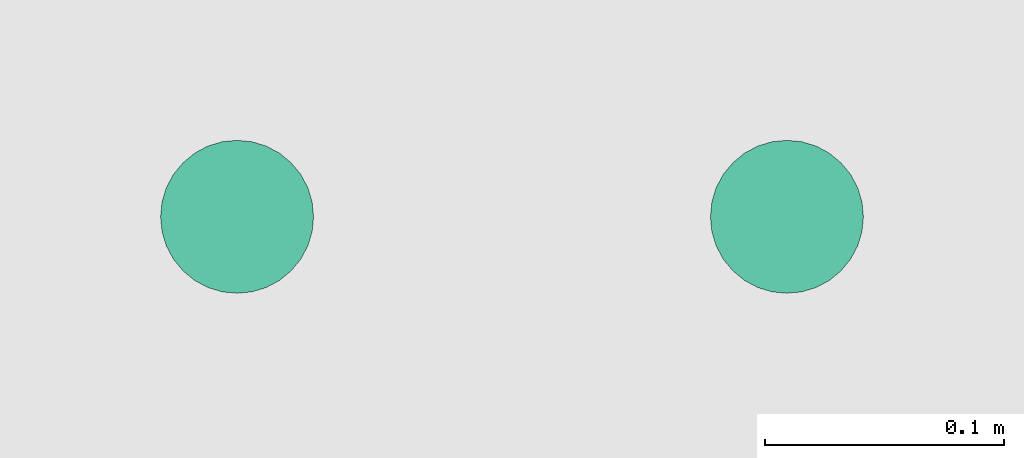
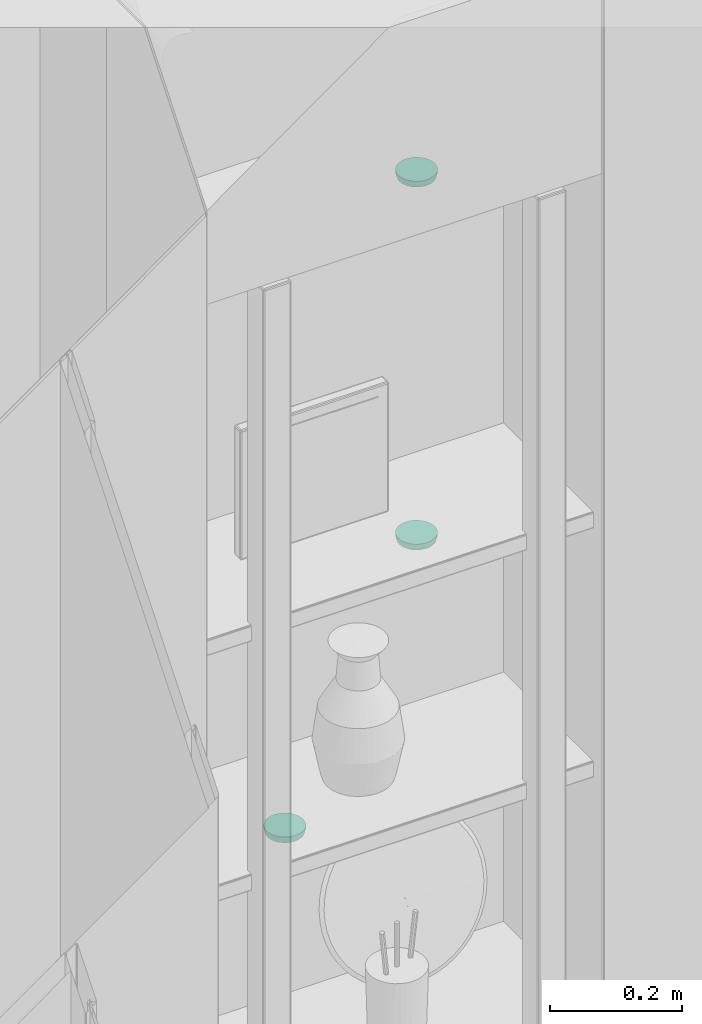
# One storey, part 10 of 11: 3 light fixtures.
"""IFC4 building model written with IfcOpenShell, lengths in millimetres."""

from ifc_helpers import new_model, si_unit, frame, origin_with_axes, place, context, subcontext, project, spatial, triangles, material, constituent, constituent_set, element, save


model = new_model("IFC4")

# Units and contexts
model_context = context("Model", 3, precision=0.01, world=origin_with_axes())
body_context = subcontext(model_context, "Body", "Model", "MODEL_VIEW")
ifc_project = project(units=[si_unit("LENGTHUNIT", "METRE", prefix="MILLI"), si_unit("AREAUNIT", "SQUARE_METRE"), si_unit("VOLUMEUNIT", "CUBIC_METRE"), si_unit("PLANEANGLEUNIT", "RADIAN")], contexts=[model_context])

# Site, building, storey
site_placement = place(None, origin_with_axes())
site = spatial("IfcSite", under=ifc_project, at=site_placement, Name="Участок", CompositionType="ELEMENT")
building_placement = place(site_placement, origin_with_axes())
building = spatial("IfcBuilding", under=site, at=building_placement, Name="Жилой дом", CompositionType="ELEMENT")
storey_placement = place(building_placement, origin_with_axes())
storey = spatial("IfcBuildingStorey", under=building, at=storey_placement, Name="Квартира ±0,000", CompositionType="ELEMENT", Elevation=0.0)

# Light fixtures
ifc_material_1 = material(Name="Латунь полированная (каркасы, ручки, светильники)")
ifc_constituent_1 = constituent(ifc_material_1)
ifc_material_2 = material(Name="Светодиодная лента (свечение)")
ifc_constituent_2 = constituent(ifc_material_2)
ifc_constituent_set = constituent_set(constituents=[ifc_constituent_1, ifc_constituent_2], Name="Латунь полированная (каркасы, ручки, светильники) + Светодиодная лента (свечение)")
light_fixture_1_placement = place(storey_placement, frame((1028.0, 3418.0, 1457.0)))
element("IfcLightFixture", 1, at=light_fixture_1_placement, inside=storey, material=ifc_constituent_set, Name="Светильник мебельный накладной (01г)", PredefinedType="POINTSOURCE", context=body_context, shape_type="Tessellation", body=[
    triangles([(32.0, 32.0, 1.0), (32.0, 32.0, 1.0), (32.0, 32.0, 1.0), (32.0, 32.0, 1.0), (32.0, 32.0, 1.0), (32.0, 32.0, 1.0), (32.0, 32.0, 1.0), (32.0, 32.0, 1.0), (32.0, 32.0, 1.0), (32.0, 32.0, 1.0), (32.0, 32.0, 1.0), (32.0, 32.0, 1.0), (32.0, 32.0, 1.0), (32.0, 32.0, 1.0), (32.0, 32.0, 1.0), (32.0, 32.0, 1.0), (32.0, 32.0, 1.0), (32.0, 32.0, 1.0), (32.0, 32.0, 1.0), (32.0, 32.0, 1.0), (32.0, 32.0, 1.0), (32.0, 32.0, 1.0), (32.0, 32.0, 1.0), (32.0, 32.0, 1.0), (32.0, 32.0, 1.0), (32.0, 32.0, 1.0), (32.0, 32.0, 1.0), (32.0, 32.0, 1.0), (32.0, 32.0, 1.0), (32.0, 32.0, 1.0), (32.0, 32.0, 1.0), (32.0, 32.0, 1.0), (62.0, 32.0, 1.0), (61.4, 37.9, 1.0), (59.7, 43.5, 1.0), (56.9, 48.7, 1.0), (53.2, 53.2, 1.0), (48.7, 56.9, 1.0), (43.5, 59.7, 1.0), (37.9, 61.4, 1.0), (32.0, 62.0, 1.0), (26.1, 61.4, 1.0), (20.5, 59.7, 1.0), (15.3, 56.9, 1.0), (10.8, 53.2, 1.0), (7.1, 48.7, 1.0), (4.3, 43.5, 1.0), (2.6, 37.9, 1.0), (2.0, 32.0, 1.0), (2.6, 26.1, 1.0), (4.3, 20.5, 1.0), (7.1, 15.3, 1.0), (10.8, 10.8, 1.0), (15.3, 7.1, 1.0), (20.5, 4.3, 1.0), (26.1, 2.6, 1.0), (32.0, 2.0, 1.0), (37.9, 2.6, 1.0), (43.5, 4.3, 1.0), (48.7, 7.1, 1.0), (53.2, 10.8, 1.0), (56.9, 15.3, 1.0), (59.7, 20.5, 1.0), (61.4, 26.1, 1.0), (64.0, 32.0, 9.0), (63.4, 38.2, 9.0), (61.6, 44.2, 9.0), (58.6, 49.8, 9.0), (54.6, 54.6, 9.0), (49.8, 58.6, 9.0), (44.2, 61.6, 9.0), (38.2, 63.4, 9.0), (32.0, 64.0, 9.0), (25.8, 63.4, 9.0), (19.8, 61.6, 9.0), (14.2, 58.6, 9.0), (9.4, 54.6, 9.0), (5.4, 49.8, 9.0), (2.4, 44.2, 9.0), (0.6, 38.2, 9.0), (0.0, 32.0, 9.0), (0.6, 25.8, 9.0), (2.4, 19.8, 9.0), (5.4, 14.2, 9.0), (9.4, 9.4, 9.0), (14.2, 5.4, 9.0), (19.8, 2.4, 9.0), (25.8, 0.6, 9.0), (32.0, 0.0, 9.0), (38.2, 0.6, 9.0), (44.2, 2.4, 9.0), (49.8, 5.4, 9.0), (54.6, 9.4, 9.0), (58.6, 14.2, 9.0), (61.6, 19.8, 9.0), (63.4, 25.8, 9.0), (64.0, 32.0, 13.0), (63.4, 38.2, 13.0), (61.6, 44.2, 13.0), (58.6, 49.8, 13.0), (54.6, 54.6, 13.0), (49.8, 58.6, 13.0), (44.2, 61.6, 13.0), (38.2, 63.4, 13.0), (32.0, 64.0, 13.0), (25.8, 63.4, 13.0), (19.8, 61.6, 13.0), (14.2, 58.6, 13.0), (9.4, 54.6, 13.0), (5.4, 49.8, 13.0), (2.4, 44.2, 13.0), (0.6, 38.2, 13.0), (0.0, 32.0, 13.0), (0.6, 25.8, 13.0), (2.4, 19.8, 13.0), (5.4, 14.2, 13.0), (9.4, 9.4, 13.0), (14.2, 5.4, 13.0), (19.8, 2.4, 13.0), (25.8, 0.6, 13.0), (32.0, 0.0, 13.0), (38.2, 0.6, 13.0), (44.2, 2.4, 13.0), (49.8, 5.4, 13.0), (54.6, 9.4, 13.0), (58.6, 14.2, 13.0), (61.6, 19.8, 13.0), (63.4, 25.8, 13.0), (32.0, 32.0, 13.0), (32.0, 32.0, 13.0), (32.0, 32.0, 13.0), (32.0, 32.0, 13.0), (32.0, 32.0, 13.0), (32.0, 32.0, 13.0), (32.0, 32.0, 13.0), (32.0, 32.0, 13.0), (32.0, 32.0, 13.0), (32.0, 32.0, 13.0), (32.0, 32.0, 13.0), (32.0, 32.0, 13.0), (32.0, 32.0, 13.0), (32.0, 32.0, 13.0), (32.0, 32.0, 13.0), (32.0, 32.0, 13.0), (32.0, 32.0, 13.0), (32.0, 32.0, 13.0), (32.0, 32.0, 13.0), (32.0, 32.0, 13.0), (32.0, 32.0, 13.0), (32.0, 32.0, 13.0), (32.0, 32.0, 13.0), (32.0, 32.0, 13.0), (32.0, 32.0, 13.0), (32.0, 32.0, 13.0), (32.0, 32.0, 13.0), (32.0, 32.0, 13.0), (32.0, 32.0, 13.0), (32.0, 32.0, 13.0), (32.0, 32.0, 13.0), (32.0, 32.0, 13.0)], [[1, 2, 34], [1, 34, 33], [2, 3, 35], [2, 35, 34], [3, 4, 36], [3, 36, 35], [4, 5, 37], [4, 37, 36], [5, 6, 38], [5, 38, 37], [6, 7, 39], [6, 39, 38], [7, 8, 40], [7, 40, 39], [8, 9, 41], [8, 41, 40], [9, 10, 42], [9, 42, 41], [10, 11, 43], [10, 43, 42], [11, 12, 44], [11, 44, 43], [12, 13, 45], [12, 45, 44], [13, 14, 46], [13, 46, 45], [14, 15, 47], [14, 47, 46], [15, 16, 48], [15, 48, 47], [16, 17, 49], [16, 49, 48], [17, 18, 50], [17, 50, 49], [18, 19, 51], [18, 51, 50], [19, 20, 52], [19, 52, 51], [20, 21, 53], [20, 53, 52], [21, 22, 54], [21, 54, 53], [22, 23, 55], [22, 55, 54], [23, 24, 56], [23, 56, 55], [24, 25, 57], [24, 57, 56], [25, 26, 58], [25, 58, 57], [26, 27, 59], [26, 59, 58], [27, 28, 60], [27, 60, 59], [28, 29, 61], [28, 61, 60], [29, 30, 62], [29, 62, 61], [30, 31, 63], [30, 63, 62], [31, 32, 64], [31, 64, 63], [32, 1, 33], [32, 33, 64], [33, 34, 66], [33, 66, 65], [34, 35, 67], [34, 67, 66], [35, 36, 68], [35, 68, 67], [36, 37, 69], [36, 69, 68], [37, 38, 70], [37, 70, 69], [38, 39, 71], [38, 71, 70], [39, 40, 72], [39, 72, 71], [40, 41, 73], [40, 73, 72], [41, 42, 74], [41, 74, 73], [42, 43, 75], [42, 75, 74], [43, 44, 76], [43, 76, 75], [44, 45, 77], [44, 77, 76], [45, 46, 78], [45, 78, 77], [46, 47, 79], [46, 79, 78], [47, 48, 80], [47, 80, 79], [48, 49, 81], [48, 81, 80], [49, 50, 82], [49, 82, 81], [50, 51, 83], [50, 83, 82], [51, 52, 84], [51, 84, 83], [52, 53, 85], [52, 85, 84], [53, 54, 86], [53, 86, 85], [54, 55, 87], [54, 87, 86], [55, 56, 88], [55, 88, 87], [56, 57, 89], [56, 89, 88], [57, 58, 90], [57, 90, 89], [58, 59, 91], [58, 91, 90], [59, 60, 92], [59, 92, 91], [60, 61, 93], [60, 93, 92], [61, 62, 94], [61, 94, 93], [62, 63, 95], [62, 95, 94], [63, 64, 96], [63, 96, 95], [64, 33, 65], [64, 65, 96], [65, 66, 98], [65, 98, 97], [66, 67, 99], [66, 99, 98], [67, 68, 100], [67, 100, 99], [68, 69, 101], [68, 101, 100], [69, 70, 102], [69, 102, 101], [70, 71, 103], [70, 103, 102], [71, 72, 104], [71, 104, 103], [72, 73, 105], [72, 105, 104], [73, 74, 106], [73, 106, 105], [74, 75, 107], [74, 107, 106], [75, 76, 108], [75, 108, 107], [76, 77, 109], [76, 109, 108], [77, 78, 110], [77, 110, 109], [78, 79, 111], [78, 111, 110], [79, 80, 112], [79, 112, 111], [80, 81, 113], [80, 113, 112], [81, 82, 114], [81, 114, 113], [82, 83, 115], [82, 115, 114], [83, 84, 116], [83, 116, 115], [84, 85, 117], [84, 117, 116], [85, 86, 118], [85, 118, 117], [86, 87, 119], [86, 119, 118], [87, 88, 120], [87, 120, 119], [88, 89, 121], [88, 121, 120], [89, 90, 122], [89, 122, 121], [90, 91, 123], [90, 123, 122], [91, 92, 124], [91, 124, 123], [92, 93, 125], [92, 125, 124], [93, 94, 126], [93, 126, 125], [94, 95, 127], [94, 127, 126], [95, 96, 128], [95, 128, 127], [96, 65, 97], [96, 97, 128], [97, 98, 130], [97, 130, 129], [98, 99, 131], [98, 131, 130], [99, 100, 132], [99, 132, 131], [100, 101, 133], [100, 133, 132], [101, 102, 134], [101, 134, 133], [102, 103, 135], [102, 135, 134], [103, 104, 136], [103, 136, 135], [104, 105, 137], [104, 137, 136], [105, 106, 138], [105, 138, 137], [106, 107, 139], [106, 139, 138], [107, 108, 140], [107, 140, 139], [108, 109, 141], [108, 141, 140], [109, 110, 142], [109, 142, 141], [110, 111, 143], [110, 143, 142], [111, 112, 144], [111, 144, 143], [112, 113, 145], [112, 145, 144], [113, 114, 146], [113, 146, 145], [114, 115, 147], [114, 147, 146], [115, 116, 148], [115, 148, 147], [116, 117, 149], [116, 149, 148], [117, 118, 150], [117, 150, 149], [118, 119, 151], [118, 151, 150], [119, 120, 152], [119, 152, 151], [120, 121, 153], [120, 153, 152], [121, 122, 154], [121, 154, 153], [122, 123, 155], [122, 155, 154], [123, 124, 156], [123, 156, 155], [124, 125, 157], [124, 157, 156], [125, 126, 158], [125, 158, 157], [126, 127, 159], [126, 159, 158], [127, 128, 160], [127, 160, 159], [128, 97, 129], [128, 129, 160]]),
    triangles([(32.0, 32.0, 0.0), (32.0, 32.0, 0.0), (32.0, 32.0, 0.0), (32.0, 32.0, 0.0), (32.0, 32.0, 0.0), (32.0, 32.0, 0.0), (32.0, 32.0, 0.0), (32.0, 32.0, 0.0), (32.0, 32.0, 0.0), (32.0, 32.0, 0.0), (32.0, 32.0, 0.0), (32.0, 32.0, 0.0), (32.0, 32.0, 0.0), (32.0, 32.0, 0.0), (32.0, 32.0, 0.0), (32.0, 32.0, 0.0), (32.0, 32.0, 0.0), (32.0, 32.0, 0.0), (32.0, 32.0, 0.0), (32.0, 32.0, 0.0), (32.0, 32.0, 0.0), (32.0, 32.0, 0.0), (32.0, 32.0, 0.0), (32.0, 32.0, 0.0), (50.0, 32.0, 0.0), (49.4, 36.7, 0.0), (47.6, 41.0, 0.0), (44.7, 44.7, 0.0), (41.0, 47.6, 0.0), (36.7, 49.4, 0.0), (32.0, 50.0, 0.0), (27.3, 49.4, 0.0), (23.0, 47.6, 0.0), (19.3, 44.7, 0.0), (16.4, 41.0, 0.0), (14.6, 36.7, 0.0), (14.0, 32.0, 0.0), (14.6, 27.3, 0.0), (16.4, 23.0, 0.0), (19.3, 19.3, 0.0), (23.0, 16.4, 0.0), (27.3, 14.6, 0.0), (32.0, 14.0, 0.0), (36.7, 14.6, 0.0), (41.0, 16.4, 0.0), (44.7, 19.3, 0.0), (47.6, 23.0, 0.0), (49.4, 27.3, 0.0), (50.0, 32.0, 1.0), (49.4, 36.7, 1.0), (47.6, 41.0, 1.0), (44.7, 44.7, 1.0), (41.0, 47.6, 1.0), (36.7, 49.4, 1.0), (32.0, 50.0, 1.0), (27.3, 49.4, 1.0), (23.0, 47.6, 1.0), (19.3, 44.7, 1.0), (16.4, 41.0, 1.0), (14.6, 36.7, 1.0), (14.0, 32.0, 1.0), (14.6, 27.3, 1.0), (16.4, 23.0, 1.0), (19.3, 19.3, 1.0), (23.0, 16.4, 1.0), (27.3, 14.6, 1.0), (32.0, 14.0, 1.0), (36.7, 14.6, 1.0), (41.0, 16.4, 1.0), (44.7, 19.3, 1.0), (47.6, 23.0, 1.0), (49.4, 27.3, 1.0), (32.0, 32.0, 1.0), (32.0, 32.0, 1.0), (32.0, 32.0, 1.0), (32.0, 32.0, 1.0), (32.0, 32.0, 1.0), (32.0, 32.0, 1.0), (32.0, 32.0, 1.0), (32.0, 32.0, 1.0), (32.0, 32.0, 1.0), (32.0, 32.0, 1.0), (32.0, 32.0, 1.0), (32.0, 32.0, 1.0), (32.0, 32.0, 1.0), (32.0, 32.0, 1.0), (32.0, 32.0, 1.0), (32.0, 32.0, 1.0), (32.0, 32.0, 1.0), (32.0, 32.0, 1.0), (32.0, 32.0, 1.0), (32.0, 32.0, 1.0), (32.0, 32.0, 1.0), (32.0, 32.0, 1.0), (32.0, 32.0, 1.0), (32.0, 32.0, 1.0)], [[1, 2, 26], [1, 26, 25], [2, 3, 27], [2, 27, 26], [3, 4, 28], [3, 28, 27], [4, 5, 29], [4, 29, 28], [5, 6, 30], [5, 30, 29], [6, 7, 31], [6, 31, 30], [7, 8, 32], [7, 32, 31], [8, 9, 33], [8, 33, 32], [9, 10, 34], [9, 34, 33], [10, 11, 35], [10, 35, 34], [11, 12, 36], [11, 36, 35], [12, 13, 37], [12, 37, 36], [13, 14, 38], [13, 38, 37], [14, 15, 39], [14, 39, 38], [15, 16, 40], [15, 40, 39], [16, 17, 41], [16, 41, 40], [17, 18, 42], [17, 42, 41], [18, 19, 43], [18, 43, 42], [19, 20, 44], [19, 44, 43], [20, 21, 45], [20, 45, 44], [21, 22, 46], [21, 46, 45], [22, 23, 47], [22, 47, 46], [23, 24, 48], [23, 48, 47], [24, 1, 25], [24, 25, 48], [25, 26, 50], [25, 50, 49], [26, 27, 51], [26, 51, 50], [27, 28, 52], [27, 52, 51], [28, 29, 53], [28, 53, 52], [29, 30, 54], [29, 54, 53], [30, 31, 55], [30, 55, 54], [31, 32, 56], [31, 56, 55], [32, 33, 57], [32, 57, 56], [33, 34, 58], [33, 58, 57], [34, 35, 59], [34, 59, 58], [35, 36, 60], [35, 60, 59], [36, 37, 61], [36, 61, 60], [37, 38, 62], [37, 62, 61], [38, 39, 63], [38, 63, 62], [39, 40, 64], [39, 64, 63], [40, 41, 65], [40, 65, 64], [41, 42, 66], [41, 66, 65], [42, 43, 67], [42, 67, 66], [43, 44, 68], [43, 68, 67], [44, 45, 69], [44, 69, 68], [45, 46, 70], [45, 70, 69], [46, 47, 71], [46, 71, 70], [47, 48, 72], [47, 72, 71], [48, 25, 49], [48, 49, 72], [49, 50, 74], [49, 74, 73], [50, 51, 75], [50, 75, 74], [51, 52, 76], [51, 76, 75], [52, 53, 77], [52, 77, 76], [53, 54, 78], [53, 78, 77], [54, 55, 79], [54, 79, 78], [55, 56, 80], [55, 80, 79], [56, 57, 81], [56, 81, 80], [57, 58, 82], [57, 82, 81], [58, 59, 83], [58, 83, 82], [59, 60, 84], [59, 84, 83], [60, 61, 85], [60, 85, 84], [61, 62, 86], [61, 86, 85], [62, 63, 87], [62, 87, 86], [63, 64, 88], [63, 88, 87], [64, 65, 89], [64, 89, 88], [65, 66, 90], [65, 90, 89], [66, 67, 91], [66, 91, 90], [67, 68, 92], [67, 92, 91], [68, 69, 93], [68, 93, 92], [69, 70, 94], [69, 94, 93], [70, 71, 95], [70, 95, 94], [71, 72, 96], [71, 96, 95], [72, 49, 73], [72, 73, 96]]),
])
light_fixture_2_placement = place(storey_placement, frame((1258.0, 3418.0, 2587.0)))
element("IfcLightFixture", 2, at=light_fixture_2_placement, inside=storey, material=ifc_constituent_set, Name="Светильник мебельный накладной (01г)", PredefinedType="POINTSOURCE", context=body_context, shape_type="Tessellation", body=[
    triangles([(32.0, 32.0, 1.0), (32.0, 32.0, 1.0), (32.0, 32.0, 1.0), (32.0, 32.0, 1.0), (32.0, 32.0, 1.0), (32.0, 32.0, 1.0), (32.0, 32.0, 1.0), (32.0, 32.0, 1.0), (32.0, 32.0, 1.0), (32.0, 32.0, 1.0), (32.0, 32.0, 1.0), (32.0, 32.0, 1.0), (32.0, 32.0, 1.0), (32.0, 32.0, 1.0), (32.0, 32.0, 1.0), (32.0, 32.0, 1.0), (32.0, 32.0, 1.0), (32.0, 32.0, 1.0), (32.0, 32.0, 1.0), (32.0, 32.0, 1.0), (32.0, 32.0, 1.0), (32.0, 32.0, 1.0), (32.0, 32.0, 1.0), (32.0, 32.0, 1.0), (32.0, 32.0, 1.0), (32.0, 32.0, 1.0), (32.0, 32.0, 1.0), (32.0, 32.0, 1.0), (32.0, 32.0, 1.0), (32.0, 32.0, 1.0), (32.0, 32.0, 1.0), (32.0, 32.0, 1.0), (62.0, 32.0, 1.0), (61.4, 37.9, 1.0), (59.7, 43.5, 1.0), (56.9, 48.7, 1.0), (53.2, 53.2, 1.0), (48.7, 56.9, 1.0), (43.5, 59.7, 1.0), (37.9, 61.4, 1.0), (32.0, 62.0, 1.0), (26.1, 61.4, 1.0), (20.5, 59.7, 1.0), (15.3, 56.9, 1.0), (10.8, 53.2, 1.0), (7.1, 48.7, 1.0), (4.3, 43.5, 1.0), (2.6, 37.9, 1.0), (2.0, 32.0, 1.0), (2.6, 26.1, 1.0), (4.3, 20.5, 1.0), (7.1, 15.3, 1.0), (10.8, 10.8, 1.0), (15.3, 7.1, 1.0), (20.5, 4.3, 1.0), (26.1, 2.6, 1.0), (32.0, 2.0, 1.0), (37.9, 2.6, 1.0), (43.5, 4.3, 1.0), (48.7, 7.1, 1.0), (53.2, 10.8, 1.0), (56.9, 15.3, 1.0), (59.7, 20.5, 1.0), (61.4, 26.1, 1.0), (64.0, 32.0, 9.0), (63.4, 38.2, 9.0), (61.6, 44.2, 9.0), (58.6, 49.8, 9.0), (54.6, 54.6, 9.0), (49.8, 58.6, 9.0), (44.2, 61.6, 9.0), (38.2, 63.4, 9.0), (32.0, 64.0, 9.0), (25.8, 63.4, 9.0), (19.8, 61.6, 9.0), (14.2, 58.6, 9.0), (9.4, 54.6, 9.0), (5.4, 49.8, 9.0), (2.4, 44.2, 9.0), (0.6, 38.2, 9.0), (0.0, 32.0, 9.0), (0.6, 25.8, 9.0), (2.4, 19.8, 9.0), (5.4, 14.2, 9.0), (9.4, 9.4, 9.0), (14.2, 5.4, 9.0), (19.8, 2.4, 9.0), (25.8, 0.6, 9.0), (32.0, 0.0, 9.0), (38.2, 0.6, 9.0), (44.2, 2.4, 9.0), (49.8, 5.4, 9.0), (54.6, 9.4, 9.0), (58.6, 14.2, 9.0), (61.6, 19.8, 9.0), (63.4, 25.8, 9.0), (64.0, 32.0, 13.0), (63.4, 38.2, 13.0), (61.6, 44.2, 13.0), (58.6, 49.8, 13.0), (54.6, 54.6, 13.0), (49.8, 58.6, 13.0), (44.2, 61.6, 13.0), (38.2, 63.4, 13.0), (32.0, 64.0, 13.0), (25.8, 63.4, 13.0), (19.8, 61.6, 13.0), (14.2, 58.6, 13.0), (9.4, 54.6, 13.0), (5.4, 49.8, 13.0), (2.4, 44.2, 13.0), (0.6, 38.2, 13.0), (0.0, 32.0, 13.0), (0.6, 25.8, 13.0), (2.4, 19.8, 13.0), (5.4, 14.2, 13.0), (9.4, 9.4, 13.0), (14.2, 5.4, 13.0), (19.8, 2.4, 13.0), (25.8, 0.6, 13.0), (32.0, 0.0, 13.0), (38.2, 0.6, 13.0), (44.2, 2.4, 13.0), (49.8, 5.4, 13.0), (54.6, 9.4, 13.0), (58.6, 14.2, 13.0), (61.6, 19.8, 13.0), (63.4, 25.8, 13.0), (32.0, 32.0, 13.0), (32.0, 32.0, 13.0), (32.0, 32.0, 13.0), (32.0, 32.0, 13.0), (32.0, 32.0, 13.0), (32.0, 32.0, 13.0), (32.0, 32.0, 13.0), (32.0, 32.0, 13.0), (32.0, 32.0, 13.0), (32.0, 32.0, 13.0), (32.0, 32.0, 13.0), (32.0, 32.0, 13.0), (32.0, 32.0, 13.0), (32.0, 32.0, 13.0), (32.0, 32.0, 13.0), (32.0, 32.0, 13.0), (32.0, 32.0, 13.0), (32.0, 32.0, 13.0), (32.0, 32.0, 13.0), (32.0, 32.0, 13.0), (32.0, 32.0, 13.0), (32.0, 32.0, 13.0), (32.0, 32.0, 13.0), (32.0, 32.0, 13.0), (32.0, 32.0, 13.0), (32.0, 32.0, 13.0), (32.0, 32.0, 13.0), (32.0, 32.0, 13.0), (32.0, 32.0, 13.0), (32.0, 32.0, 13.0), (32.0, 32.0, 13.0), (32.0, 32.0, 13.0)], [[1, 2, 34], [1, 34, 33], [2, 3, 35], [2, 35, 34], [3, 4, 36], [3, 36, 35], [4, 5, 37], [4, 37, 36], [5, 6, 38], [5, 38, 37], [6, 7, 39], [6, 39, 38], [7, 8, 40], [7, 40, 39], [8, 9, 41], [8, 41, 40], [9, 10, 42], [9, 42, 41], [10, 11, 43], [10, 43, 42], [11, 12, 44], [11, 44, 43], [12, 13, 45], [12, 45, 44], [13, 14, 46], [13, 46, 45], [14, 15, 47], [14, 47, 46], [15, 16, 48], [15, 48, 47], [16, 17, 49], [16, 49, 48], [17, 18, 50], [17, 50, 49], [18, 19, 51], [18, 51, 50], [19, 20, 52], [19, 52, 51], [20, 21, 53], [20, 53, 52], [21, 22, 54], [21, 54, 53], [22, 23, 55], [22, 55, 54], [23, 24, 56], [23, 56, 55], [24, 25, 57], [24, 57, 56], [25, 26, 58], [25, 58, 57], [26, 27, 59], [26, 59, 58], [27, 28, 60], [27, 60, 59], [28, 29, 61], [28, 61, 60], [29, 30, 62], [29, 62, 61], [30, 31, 63], [30, 63, 62], [31, 32, 64], [31, 64, 63], [32, 1, 33], [32, 33, 64], [33, 34, 66], [33, 66, 65], [34, 35, 67], [34, 67, 66], [35, 36, 68], [35, 68, 67], [36, 37, 69], [36, 69, 68], [37, 38, 70], [37, 70, 69], [38, 39, 71], [38, 71, 70], [39, 40, 72], [39, 72, 71], [40, 41, 73], [40, 73, 72], [41, 42, 74], [41, 74, 73], [42, 43, 75], [42, 75, 74], [43, 44, 76], [43, 76, 75], [44, 45, 77], [44, 77, 76], [45, 46, 78], [45, 78, 77], [46, 47, 79], [46, 79, 78], [47, 48, 80], [47, 80, 79], [48, 49, 81], [48, 81, 80], [49, 50, 82], [49, 82, 81], [50, 51, 83], [50, 83, 82], [51, 52, 84], [51, 84, 83], [52, 53, 85], [52, 85, 84], [53, 54, 86], [53, 86, 85], [54, 55, 87], [54, 87, 86], [55, 56, 88], [55, 88, 87], [56, 57, 89], [56, 89, 88], [57, 58, 90], [57, 90, 89], [58, 59, 91], [58, 91, 90], [59, 60, 92], [59, 92, 91], [60, 61, 93], [60, 93, 92], [61, 62, 94], [61, 94, 93], [62, 63, 95], [62, 95, 94], [63, 64, 96], [63, 96, 95], [64, 33, 65], [64, 65, 96], [65, 66, 98], [65, 98, 97], [66, 67, 99], [66, 99, 98], [67, 68, 100], [67, 100, 99], [68, 69, 101], [68, 101, 100], [69, 70, 102], [69, 102, 101], [70, 71, 103], [70, 103, 102], [71, 72, 104], [71, 104, 103], [72, 73, 105], [72, 105, 104], [73, 74, 106], [73, 106, 105], [74, 75, 107], [74, 107, 106], [75, 76, 108], [75, 108, 107], [76, 77, 109], [76, 109, 108], [77, 78, 110], [77, 110, 109], [78, 79, 111], [78, 111, 110], [79, 80, 112], [79, 112, 111], [80, 81, 113], [80, 113, 112], [81, 82, 114], [81, 114, 113], [82, 83, 115], [82, 115, 114], [83, 84, 116], [83, 116, 115], [84, 85, 117], [84, 117, 116], [85, 86, 118], [85, 118, 117], [86, 87, 119], [86, 119, 118], [87, 88, 120], [87, 120, 119], [88, 89, 121], [88, 121, 120], [89, 90, 122], [89, 122, 121], [90, 91, 123], [90, 123, 122], [91, 92, 124], [91, 124, 123], [92, 93, 125], [92, 125, 124], [93, 94, 126], [93, 126, 125], [94, 95, 127], [94, 127, 126], [95, 96, 128], [95, 128, 127], [96, 65, 97], [96, 97, 128], [97, 98, 130], [97, 130, 129], [98, 99, 131], [98, 131, 130], [99, 100, 132], [99, 132, 131], [100, 101, 133], [100, 133, 132], [101, 102, 134], [101, 134, 133], [102, 103, 135], [102, 135, 134], [103, 104, 136], [103, 136, 135], [104, 105, 137], [104, 137, 136], [105, 106, 138], [105, 138, 137], [106, 107, 139], [106, 139, 138], [107, 108, 140], [107, 140, 139], [108, 109, 141], [108, 141, 140], [109, 110, 142], [109, 142, 141], [110, 111, 143], [110, 143, 142], [111, 112, 144], [111, 144, 143], [112, 113, 145], [112, 145, 144], [113, 114, 146], [113, 146, 145], [114, 115, 147], [114, 147, 146], [115, 116, 148], [115, 148, 147], [116, 117, 149], [116, 149, 148], [117, 118, 150], [117, 150, 149], [118, 119, 151], [118, 151, 150], [119, 120, 152], [119, 152, 151], [120, 121, 153], [120, 153, 152], [121, 122, 154], [121, 154, 153], [122, 123, 155], [122, 155, 154], [123, 124, 156], [123, 156, 155], [124, 125, 157], [124, 157, 156], [125, 126, 158], [125, 158, 157], [126, 127, 159], [126, 159, 158], [127, 128, 160], [127, 160, 159], [128, 97, 129], [128, 129, 160]]),
    triangles([(32.0, 32.0, 0.0), (32.0, 32.0, 0.0), (32.0, 32.0, 0.0), (32.0, 32.0, 0.0), (32.0, 32.0, 0.0), (32.0, 32.0, 0.0), (32.0, 32.0, 0.0), (32.0, 32.0, 0.0), (32.0, 32.0, 0.0), (32.0, 32.0, 0.0), (32.0, 32.0, 0.0), (32.0, 32.0, 0.0), (32.0, 32.0, 0.0), (32.0, 32.0, 0.0), (32.0, 32.0, 0.0), (32.0, 32.0, 0.0), (32.0, 32.0, 0.0), (32.0, 32.0, 0.0), (32.0, 32.0, 0.0), (32.0, 32.0, 0.0), (32.0, 32.0, 0.0), (32.0, 32.0, 0.0), (32.0, 32.0, 0.0), (32.0, 32.0, 0.0), (50.0, 32.0, 0.0), (49.4, 36.7, 0.0), (47.6, 41.0, 0.0), (44.7, 44.7, 0.0), (41.0, 47.6, 0.0), (36.7, 49.4, 0.0), (32.0, 50.0, 0.0), (27.3, 49.4, 0.0), (23.0, 47.6, 0.0), (19.3, 44.7, 0.0), (16.4, 41.0, 0.0), (14.6, 36.7, 0.0), (14.0, 32.0, 0.0), (14.6, 27.3, 0.0), (16.4, 23.0, 0.0), (19.3, 19.3, 0.0), (23.0, 16.4, 0.0), (27.3, 14.6, 0.0), (32.0, 14.0, 0.0), (36.7, 14.6, 0.0), (41.0, 16.4, 0.0), (44.7, 19.3, 0.0), (47.6, 23.0, 0.0), (49.4, 27.3, 0.0), (50.0, 32.0, 1.0), (49.4, 36.7, 1.0), (47.6, 41.0, 1.0), (44.7, 44.7, 1.0), (41.0, 47.6, 1.0), (36.7, 49.4, 1.0), (32.0, 50.0, 1.0), (27.3, 49.4, 1.0), (23.0, 47.6, 1.0), (19.3, 44.7, 1.0), (16.4, 41.0, 1.0), (14.6, 36.7, 1.0), (14.0, 32.0, 1.0), (14.6, 27.3, 1.0), (16.4, 23.0, 1.0), (19.3, 19.3, 1.0), (23.0, 16.4, 1.0), (27.3, 14.6, 1.0), (32.0, 14.0, 1.0), (36.7, 14.6, 1.0), (41.0, 16.4, 1.0), (44.7, 19.3, 1.0), (47.6, 23.0, 1.0), (49.4, 27.3, 1.0), (32.0, 32.0, 1.0), (32.0, 32.0, 1.0), (32.0, 32.0, 1.0), (32.0, 32.0, 1.0), (32.0, 32.0, 1.0), (32.0, 32.0, 1.0), (32.0, 32.0, 1.0), (32.0, 32.0, 1.0), (32.0, 32.0, 1.0), (32.0, 32.0, 1.0), (32.0, 32.0, 1.0), (32.0, 32.0, 1.0), (32.0, 32.0, 1.0), (32.0, 32.0, 1.0), (32.0, 32.0, 1.0), (32.0, 32.0, 1.0), (32.0, 32.0, 1.0), (32.0, 32.0, 1.0), (32.0, 32.0, 1.0), (32.0, 32.0, 1.0), (32.0, 32.0, 1.0), (32.0, 32.0, 1.0), (32.0, 32.0, 1.0), (32.0, 32.0, 1.0)], [[1, 2, 26], [1, 26, 25], [2, 3, 27], [2, 27, 26], [3, 4, 28], [3, 28, 27], [4, 5, 29], [4, 29, 28], [5, 6, 30], [5, 30, 29], [6, 7, 31], [6, 31, 30], [7, 8, 32], [7, 32, 31], [8, 9, 33], [8, 33, 32], [9, 10, 34], [9, 34, 33], [10, 11, 35], [10, 35, 34], [11, 12, 36], [11, 36, 35], [12, 13, 37], [12, 37, 36], [13, 14, 38], [13, 38, 37], [14, 15, 39], [14, 39, 38], [15, 16, 40], [15, 40, 39], [16, 17, 41], [16, 41, 40], [17, 18, 42], [17, 42, 41], [18, 19, 43], [18, 43, 42], [19, 20, 44], [19, 44, 43], [20, 21, 45], [20, 45, 44], [21, 22, 46], [21, 46, 45], [22, 23, 47], [22, 47, 46], [23, 24, 48], [23, 48, 47], [24, 1, 25], [24, 25, 48], [25, 26, 50], [25, 50, 49], [26, 27, 51], [26, 51, 50], [27, 28, 52], [27, 52, 51], [28, 29, 53], [28, 53, 52], [29, 30, 54], [29, 54, 53], [30, 31, 55], [30, 55, 54], [31, 32, 56], [31, 56, 55], [32, 33, 57], [32, 57, 56], [33, 34, 58], [33, 58, 57], [34, 35, 59], [34, 59, 58], [35, 36, 60], [35, 60, 59], [36, 37, 61], [36, 61, 60], [37, 38, 62], [37, 62, 61], [38, 39, 63], [38, 63, 62], [39, 40, 64], [39, 64, 63], [40, 41, 65], [40, 65, 64], [41, 42, 66], [41, 66, 65], [42, 43, 67], [42, 67, 66], [43, 44, 68], [43, 68, 67], [44, 45, 69], [44, 69, 68], [45, 46, 70], [45, 70, 69], [46, 47, 71], [46, 71, 70], [47, 48, 72], [47, 72, 71], [48, 25, 49], [48, 49, 72], [49, 50, 74], [49, 74, 73], [50, 51, 75], [50, 75, 74], [51, 52, 76], [51, 76, 75], [52, 53, 77], [52, 77, 76], [53, 54, 78], [53, 78, 77], [54, 55, 79], [54, 79, 78], [55, 56, 80], [55, 80, 79], [56, 57, 81], [56, 81, 80], [57, 58, 82], [57, 82, 81], [58, 59, 83], [58, 83, 82], [59, 60, 84], [59, 84, 83], [60, 61, 85], [60, 85, 84], [61, 62, 86], [61, 86, 85], [62, 63, 87], [62, 87, 86], [63, 64, 88], [63, 88, 87], [64, 65, 89], [64, 89, 88], [65, 66, 90], [65, 90, 89], [66, 67, 91], [66, 91, 90], [67, 68, 92], [67, 92, 91], [68, 69, 93], [68, 93, 92], [69, 70, 94], [69, 94, 93], [70, 71, 95], [70, 95, 94], [71, 72, 96], [71, 96, 95], [72, 49, 73], [72, 73, 96]]),
])
light_fixture_3_placement = place(storey_placement, frame((1258.0, 3418.0, 1917.0)))
element("IfcLightFixture", 3, at=light_fixture_3_placement, inside=storey, material=ifc_constituent_set, Name="Светильник мебельный накладной (01г)", PredefinedType="POINTSOURCE", context=body_context, shape_type="Tessellation", body=[
    triangles([(32.0, 32.0, 1.0), (32.0, 32.0, 1.0), (32.0, 32.0, 1.0), (32.0, 32.0, 1.0), (32.0, 32.0, 1.0), (32.0, 32.0, 1.0), (32.0, 32.0, 1.0), (32.0, 32.0, 1.0), (32.0, 32.0, 1.0), (32.0, 32.0, 1.0), (32.0, 32.0, 1.0), (32.0, 32.0, 1.0), (32.0, 32.0, 1.0), (32.0, 32.0, 1.0), (32.0, 32.0, 1.0), (32.0, 32.0, 1.0), (32.0, 32.0, 1.0), (32.0, 32.0, 1.0), (32.0, 32.0, 1.0), (32.0, 32.0, 1.0), (32.0, 32.0, 1.0), (32.0, 32.0, 1.0), (32.0, 32.0, 1.0), (32.0, 32.0, 1.0), (32.0, 32.0, 1.0), (32.0, 32.0, 1.0), (32.0, 32.0, 1.0), (32.0, 32.0, 1.0), (32.0, 32.0, 1.0), (32.0, 32.0, 1.0), (32.0, 32.0, 1.0), (32.0, 32.0, 1.0), (62.0, 32.0, 1.0), (61.4, 37.9, 1.0), (59.7, 43.5, 1.0), (56.9, 48.7, 1.0), (53.2, 53.2, 1.0), (48.7, 56.9, 1.0), (43.5, 59.7, 1.0), (37.9, 61.4, 1.0), (32.0, 62.0, 1.0), (26.1, 61.4, 1.0), (20.5, 59.7, 1.0), (15.3, 56.9, 1.0), (10.8, 53.2, 1.0), (7.1, 48.7, 1.0), (4.3, 43.5, 1.0), (2.6, 37.9, 1.0), (2.0, 32.0, 1.0), (2.6, 26.1, 1.0), (4.3, 20.5, 1.0), (7.1, 15.3, 1.0), (10.8, 10.8, 1.0), (15.3, 7.1, 1.0), (20.5, 4.3, 1.0), (26.1, 2.6, 1.0), (32.0, 2.0, 1.0), (37.9, 2.6, 1.0), (43.5, 4.3, 1.0), (48.7, 7.1, 1.0), (53.2, 10.8, 1.0), (56.9, 15.3, 1.0), (59.7, 20.5, 1.0), (61.4, 26.1, 1.0), (64.0, 32.0, 9.0), (63.4, 38.2, 9.0), (61.6, 44.2, 9.0), (58.6, 49.8, 9.0), (54.6, 54.6, 9.0), (49.8, 58.6, 9.0), (44.2, 61.6, 9.0), (38.2, 63.4, 9.0), (32.0, 64.0, 9.0), (25.8, 63.4, 9.0), (19.8, 61.6, 9.0), (14.2, 58.6, 9.0), (9.4, 54.6, 9.0), (5.4, 49.8, 9.0), (2.4, 44.2, 9.0), (0.6, 38.2, 9.0), (0.0, 32.0, 9.0), (0.6, 25.8, 9.0), (2.4, 19.8, 9.0), (5.4, 14.2, 9.0), (9.4, 9.4, 9.0), (14.2, 5.4, 9.0), (19.8, 2.4, 9.0), (25.8, 0.6, 9.0), (32.0, 0.0, 9.0), (38.2, 0.6, 9.0), (44.2, 2.4, 9.0), (49.8, 5.4, 9.0), (54.6, 9.4, 9.0), (58.6, 14.2, 9.0), (61.6, 19.8, 9.0), (63.4, 25.8, 9.0), (64.0, 32.0, 13.0), (63.4, 38.2, 13.0), (61.6, 44.2, 13.0), (58.6, 49.8, 13.0), (54.6, 54.6, 13.0), (49.8, 58.6, 13.0), (44.2, 61.6, 13.0), (38.2, 63.4, 13.0), (32.0, 64.0, 13.0), (25.8, 63.4, 13.0), (19.8, 61.6, 13.0), (14.2, 58.6, 13.0), (9.4, 54.6, 13.0), (5.4, 49.8, 13.0), (2.4, 44.2, 13.0), (0.6, 38.2, 13.0), (0.0, 32.0, 13.0), (0.6, 25.8, 13.0), (2.4, 19.8, 13.0), (5.4, 14.2, 13.0), (9.4, 9.4, 13.0), (14.2, 5.4, 13.0), (19.8, 2.4, 13.0), (25.8, 0.6, 13.0), (32.0, 0.0, 13.0), (38.2, 0.6, 13.0), (44.2, 2.4, 13.0), (49.8, 5.4, 13.0), (54.6, 9.4, 13.0), (58.6, 14.2, 13.0), (61.6, 19.8, 13.0), (63.4, 25.8, 13.0), (32.0, 32.0, 13.0), (32.0, 32.0, 13.0), (32.0, 32.0, 13.0), (32.0, 32.0, 13.0), (32.0, 32.0, 13.0), (32.0, 32.0, 13.0), (32.0, 32.0, 13.0), (32.0, 32.0, 13.0), (32.0, 32.0, 13.0), (32.0, 32.0, 13.0), (32.0, 32.0, 13.0), (32.0, 32.0, 13.0), (32.0, 32.0, 13.0), (32.0, 32.0, 13.0), (32.0, 32.0, 13.0), (32.0, 32.0, 13.0), (32.0, 32.0, 13.0), (32.0, 32.0, 13.0), (32.0, 32.0, 13.0), (32.0, 32.0, 13.0), (32.0, 32.0, 13.0), (32.0, 32.0, 13.0), (32.0, 32.0, 13.0), (32.0, 32.0, 13.0), (32.0, 32.0, 13.0), (32.0, 32.0, 13.0), (32.0, 32.0, 13.0), (32.0, 32.0, 13.0), (32.0, 32.0, 13.0), (32.0, 32.0, 13.0), (32.0, 32.0, 13.0), (32.0, 32.0, 13.0)], [[1, 2, 34], [1, 34, 33], [2, 3, 35], [2, 35, 34], [3, 4, 36], [3, 36, 35], [4, 5, 37], [4, 37, 36], [5, 6, 38], [5, 38, 37], [6, 7, 39], [6, 39, 38], [7, 8, 40], [7, 40, 39], [8, 9, 41], [8, 41, 40], [9, 10, 42], [9, 42, 41], [10, 11, 43], [10, 43, 42], [11, 12, 44], [11, 44, 43], [12, 13, 45], [12, 45, 44], [13, 14, 46], [13, 46, 45], [14, 15, 47], [14, 47, 46], [15, 16, 48], [15, 48, 47], [16, 17, 49], [16, 49, 48], [17, 18, 50], [17, 50, 49], [18, 19, 51], [18, 51, 50], [19, 20, 52], [19, 52, 51], [20, 21, 53], [20, 53, 52], [21, 22, 54], [21, 54, 53], [22, 23, 55], [22, 55, 54], [23, 24, 56], [23, 56, 55], [24, 25, 57], [24, 57, 56], [25, 26, 58], [25, 58, 57], [26, 27, 59], [26, 59, 58], [27, 28, 60], [27, 60, 59], [28, 29, 61], [28, 61, 60], [29, 30, 62], [29, 62, 61], [30, 31, 63], [30, 63, 62], [31, 32, 64], [31, 64, 63], [32, 1, 33], [32, 33, 64], [33, 34, 66], [33, 66, 65], [34, 35, 67], [34, 67, 66], [35, 36, 68], [35, 68, 67], [36, 37, 69], [36, 69, 68], [37, 38, 70], [37, 70, 69], [38, 39, 71], [38, 71, 70], [39, 40, 72], [39, 72, 71], [40, 41, 73], [40, 73, 72], [41, 42, 74], [41, 74, 73], [42, 43, 75], [42, 75, 74], [43, 44, 76], [43, 76, 75], [44, 45, 77], [44, 77, 76], [45, 46, 78], [45, 78, 77], [46, 47, 79], [46, 79, 78], [47, 48, 80], [47, 80, 79], [48, 49, 81], [48, 81, 80], [49, 50, 82], [49, 82, 81], [50, 51, 83], [50, 83, 82], [51, 52, 84], [51, 84, 83], [52, 53, 85], [52, 85, 84], [53, 54, 86], [53, 86, 85], [54, 55, 87], [54, 87, 86], [55, 56, 88], [55, 88, 87], [56, 57, 89], [56, 89, 88], [57, 58, 90], [57, 90, 89], [58, 59, 91], [58, 91, 90], [59, 60, 92], [59, 92, 91], [60, 61, 93], [60, 93, 92], [61, 62, 94], [61, 94, 93], [62, 63, 95], [62, 95, 94], [63, 64, 96], [63, 96, 95], [64, 33, 65], [64, 65, 96], [65, 66, 98], [65, 98, 97], [66, 67, 99], [66, 99, 98], [67, 68, 100], [67, 100, 99], [68, 69, 101], [68, 101, 100], [69, 70, 102], [69, 102, 101], [70, 71, 103], [70, 103, 102], [71, 72, 104], [71, 104, 103], [72, 73, 105], [72, 105, 104], [73, 74, 106], [73, 106, 105], [74, 75, 107], [74, 107, 106], [75, 76, 108], [75, 108, 107], [76, 77, 109], [76, 109, 108], [77, 78, 110], [77, 110, 109], [78, 79, 111], [78, 111, 110], [79, 80, 112], [79, 112, 111], [80, 81, 113], [80, 113, 112], [81, 82, 114], [81, 114, 113], [82, 83, 115], [82, 115, 114], [83, 84, 116], [83, 116, 115], [84, 85, 117], [84, 117, 116], [85, 86, 118], [85, 118, 117], [86, 87, 119], [86, 119, 118], [87, 88, 120], [87, 120, 119], [88, 89, 121], [88, 121, 120], [89, 90, 122], [89, 122, 121], [90, 91, 123], [90, 123, 122], [91, 92, 124], [91, 124, 123], [92, 93, 125], [92, 125, 124], [93, 94, 126], [93, 126, 125], [94, 95, 127], [94, 127, 126], [95, 96, 128], [95, 128, 127], [96, 65, 97], [96, 97, 128], [97, 98, 130], [97, 130, 129], [98, 99, 131], [98, 131, 130], [99, 100, 132], [99, 132, 131], [100, 101, 133], [100, 133, 132], [101, 102, 134], [101, 134, 133], [102, 103, 135], [102, 135, 134], [103, 104, 136], [103, 136, 135], [104, 105, 137], [104, 137, 136], [105, 106, 138], [105, 138, 137], [106, 107, 139], [106, 139, 138], [107, 108, 140], [107, 140, 139], [108, 109, 141], [108, 141, 140], [109, 110, 142], [109, 142, 141], [110, 111, 143], [110, 143, 142], [111, 112, 144], [111, 144, 143], [112, 113, 145], [112, 145, 144], [113, 114, 146], [113, 146, 145], [114, 115, 147], [114, 147, 146], [115, 116, 148], [115, 148, 147], [116, 117, 149], [116, 149, 148], [117, 118, 150], [117, 150, 149], [118, 119, 151], [118, 151, 150], [119, 120, 152], [119, 152, 151], [120, 121, 153], [120, 153, 152], [121, 122, 154], [121, 154, 153], [122, 123, 155], [122, 155, 154], [123, 124, 156], [123, 156, 155], [124, 125, 157], [124, 157, 156], [125, 126, 158], [125, 158, 157], [126, 127, 159], [126, 159, 158], [127, 128, 160], [127, 160, 159], [128, 97, 129], [128, 129, 160]]),
    triangles([(32.0, 32.0, 0.0), (32.0, 32.0, 0.0), (32.0, 32.0, 0.0), (32.0, 32.0, 0.0), (32.0, 32.0, 0.0), (32.0, 32.0, 0.0), (32.0, 32.0, 0.0), (32.0, 32.0, 0.0), (32.0, 32.0, 0.0), (32.0, 32.0, 0.0), (32.0, 32.0, 0.0), (32.0, 32.0, 0.0), (32.0, 32.0, 0.0), (32.0, 32.0, 0.0), (32.0, 32.0, 0.0), (32.0, 32.0, 0.0), (32.0, 32.0, 0.0), (32.0, 32.0, 0.0), (32.0, 32.0, 0.0), (32.0, 32.0, 0.0), (32.0, 32.0, 0.0), (32.0, 32.0, 0.0), (32.0, 32.0, 0.0), (32.0, 32.0, 0.0), (50.0, 32.0, 0.0), (49.4, 36.7, 0.0), (47.6, 41.0, 0.0), (44.7, 44.7, 0.0), (41.0, 47.6, 0.0), (36.7, 49.4, 0.0), (32.0, 50.0, 0.0), (27.3, 49.4, 0.0), (23.0, 47.6, 0.0), (19.3, 44.7, 0.0), (16.4, 41.0, 0.0), (14.6, 36.7, 0.0), (14.0, 32.0, 0.0), (14.6, 27.3, 0.0), (16.4, 23.0, 0.0), (19.3, 19.3, 0.0), (23.0, 16.4, 0.0), (27.3, 14.6, 0.0), (32.0, 14.0, 0.0), (36.7, 14.6, 0.0), (41.0, 16.4, 0.0), (44.7, 19.3, 0.0), (47.6, 23.0, 0.0), (49.4, 27.3, 0.0), (50.0, 32.0, 1.0), (49.4, 36.7, 1.0), (47.6, 41.0, 1.0), (44.7, 44.7, 1.0), (41.0, 47.6, 1.0), (36.7, 49.4, 1.0), (32.0, 50.0, 1.0), (27.3, 49.4, 1.0), (23.0, 47.6, 1.0), (19.3, 44.7, 1.0), (16.4, 41.0, 1.0), (14.6, 36.7, 1.0), (14.0, 32.0, 1.0), (14.6, 27.3, 1.0), (16.4, 23.0, 1.0), (19.3, 19.3, 1.0), (23.0, 16.4, 1.0), (27.3, 14.6, 1.0), (32.0, 14.0, 1.0), (36.7, 14.6, 1.0), (41.0, 16.4, 1.0), (44.7, 19.3, 1.0), (47.6, 23.0, 1.0), (49.4, 27.3, 1.0), (32.0, 32.0, 1.0), (32.0, 32.0, 1.0), (32.0, 32.0, 1.0), (32.0, 32.0, 1.0), (32.0, 32.0, 1.0), (32.0, 32.0, 1.0), (32.0, 32.0, 1.0), (32.0, 32.0, 1.0), (32.0, 32.0, 1.0), (32.0, 32.0, 1.0), (32.0, 32.0, 1.0), (32.0, 32.0, 1.0), (32.0, 32.0, 1.0), (32.0, 32.0, 1.0), (32.0, 32.0, 1.0), (32.0, 32.0, 1.0), (32.0, 32.0, 1.0), (32.0, 32.0, 1.0), (32.0, 32.0, 1.0), (32.0, 32.0, 1.0), (32.0, 32.0, 1.0), (32.0, 32.0, 1.0), (32.0, 32.0, 1.0), (32.0, 32.0, 1.0)], [[1, 2, 26], [1, 26, 25], [2, 3, 27], [2, 27, 26], [3, 4, 28], [3, 28, 27], [4, 5, 29], [4, 29, 28], [5, 6, 30], [5, 30, 29], [6, 7, 31], [6, 31, 30], [7, 8, 32], [7, 32, 31], [8, 9, 33], [8, 33, 32], [9, 10, 34], [9, 34, 33], [10, 11, 35], [10, 35, 34], [11, 12, 36], [11, 36, 35], [12, 13, 37], [12, 37, 36], [13, 14, 38], [13, 38, 37], [14, 15, 39], [14, 39, 38], [15, 16, 40], [15, 40, 39], [16, 17, 41], [16, 41, 40], [17, 18, 42], [17, 42, 41], [18, 19, 43], [18, 43, 42], [19, 20, 44], [19, 44, 43], [20, 21, 45], [20, 45, 44], [21, 22, 46], [21, 46, 45], [22, 23, 47], [22, 47, 46], [23, 24, 48], [23, 48, 47], [24, 1, 25], [24, 25, 48], [25, 26, 50], [25, 50, 49], [26, 27, 51], [26, 51, 50], [27, 28, 52], [27, 52, 51], [28, 29, 53], [28, 53, 52], [29, 30, 54], [29, 54, 53], [30, 31, 55], [30, 55, 54], [31, 32, 56], [31, 56, 55], [32, 33, 57], [32, 57, 56], [33, 34, 58], [33, 58, 57], [34, 35, 59], [34, 59, 58], [35, 36, 60], [35, 60, 59], [36, 37, 61], [36, 61, 60], [37, 38, 62], [37, 62, 61], [38, 39, 63], [38, 63, 62], [39, 40, 64], [39, 64, 63], [40, 41, 65], [40, 65, 64], [41, 42, 66], [41, 66, 65], [42, 43, 67], [42, 67, 66], [43, 44, 68], [43, 68, 67], [44, 45, 69], [44, 69, 68], [45, 46, 70], [45, 70, 69], [46, 47, 71], [46, 71, 70], [47, 48, 72], [47, 72, 71], [48, 25, 49], [48, 49, 72], [49, 50, 74], [49, 74, 73], [50, 51, 75], [50, 75, 74], [51, 52, 76], [51, 76, 75], [52, 53, 77], [52, 77, 76], [53, 54, 78], [53, 78, 77], [54, 55, 79], [54, 79, 78], [55, 56, 80], [55, 80, 79], [56, 57, 81], [56, 81, 80], [57, 58, 82], [57, 82, 81], [58, 59, 83], [58, 83, 82], [59, 60, 84], [59, 84, 83], [60, 61, 85], [60, 85, 84], [61, 62, 86], [61, 86, 85], [62, 63, 87], [62, 87, 86], [63, 64, 88], [63, 88, 87], [64, 65, 89], [64, 89, 88], [65, 66, 90], [65, 90, 89], [66, 67, 91], [66, 91, 90], [67, 68, 92], [67, 92, 91], [68, 69, 93], [68, 93, 92], [69, 70, 94], [69, 94, 93], [70, 71, 95], [70, 95, 94], [71, 72, 96], [71, 96, 95], [72, 49, 73], [72, 73, 96]]),
])

save(model, "model.ifc")
